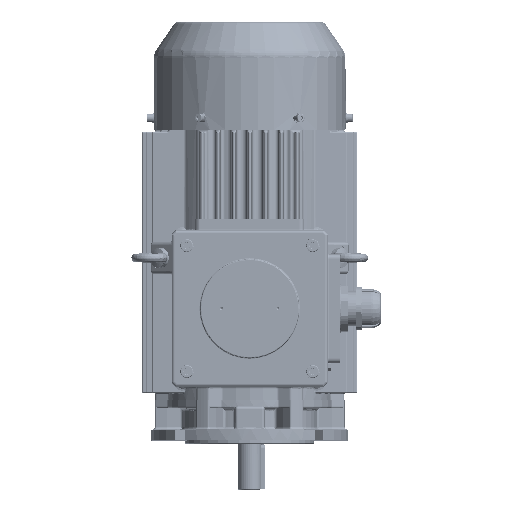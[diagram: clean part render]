
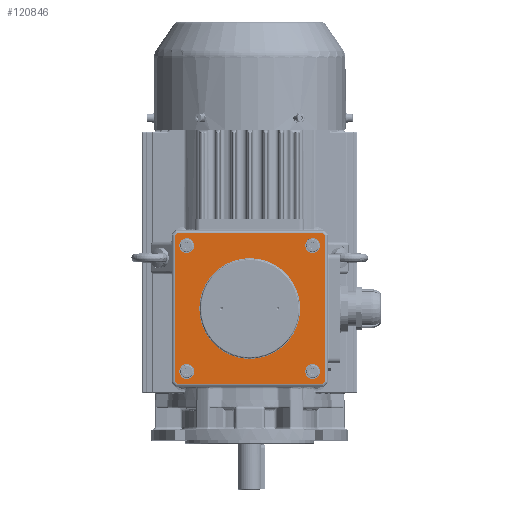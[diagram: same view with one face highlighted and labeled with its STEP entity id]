
A CAD part, top view. The second image highlights one B-rep face of the part: STEP entity #120846.
In plain terms, the highlighted planar face has unit normal (0, 0, 1).
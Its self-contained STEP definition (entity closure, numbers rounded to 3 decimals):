
#10446=LINE('',#195521,#16118);
#10447=LINE('',#195526,#16119);
#10450=LINE('',#195533,#16122);
#10451=LINE('',#195538,#16123);
#10454=LINE('',#195545,#16126);
#10455=LINE('',#195550,#16127);
#10458=LINE('',#195557,#16130);
#10460=LINE('',#195560,#16132);
#16118=VECTOR('',#152915,1000.);
#16119=VECTOR('',#152920,1000.);
#16122=VECTOR('',#152927,1000.);
#16123=VECTOR('',#152932,1000.);
#16126=VECTOR('',#152939,1000.);
#16127=VECTOR('',#152944,1000.);
#16130=VECTOR('',#152951,1000.);
#16132=VECTOR('',#152955,1000.);
#38043=ORIENTED_EDGE('',*,*,#52252,.F.);
#38044=ORIENTED_EDGE('',*,*,#52237,.T.);
#38045=ORIENTED_EDGE('',*,*,#52231,.T.);
#38046=ORIENTED_EDGE('',*,*,#52233,.T.);
#38047=ORIENTED_EDGE('',*,*,#52239,.T.);
#38048=ORIENTED_EDGE('',*,*,#52245,.T.);
#38049=ORIENTED_EDGE('',*,*,#52251,.T.);
#38050=ORIENTED_EDGE('',*,*,#52249,.T.);
#38051=ORIENTED_EDGE('',*,*,#52243,.T.);
#38052=ORIENTED_EDGE('',*,*,#52226,.T.);
#38053=ORIENTED_EDGE('',*,*,#52220,.T.);
#38054=ORIENTED_EDGE('',*,*,#52213,.T.);
#38055=ORIENTED_EDGE('',*,*,#52206,.T.);
#52206=EDGE_CURVE('',#60807,#60807,#65930,.T.);
#52213=EDGE_CURVE('',#60813,#60813,#65935,.T.);
#52220=EDGE_CURVE('',#60819,#60819,#65940,.T.);
#52226=EDGE_CURVE('',#60823,#60823,#65944,.T.);
#52231=EDGE_CURVE('',#60825,#60828,#10446,.T.);
#52233=EDGE_CURVE('',#60828,#60829,#10447,.T.);
#52237=EDGE_CURVE('',#60831,#60825,#10450,.T.);
#52239=EDGE_CURVE('',#60829,#60833,#10451,.T.);
#52243=EDGE_CURVE('',#60835,#60831,#10454,.T.);
#52245=EDGE_CURVE('',#60833,#60837,#10455,.T.);
#52249=EDGE_CURVE('',#60839,#60835,#10458,.T.);
#52251=EDGE_CURVE('',#60837,#60839,#10460,.T.);
#52252=EDGE_CURVE('',#60841,#60841,#65946,.T.);
#60807=VERTEX_POINT('',#195464);
#60813=VERTEX_POINT('',#195480);
#60819=VERTEX_POINT('',#195496);
#60823=VERTEX_POINT('',#195509);
#60825=VERTEX_POINT('',#195515);
#60828=VERTEX_POINT('',#195520);
#60829=VERTEX_POINT('',#195524);
#60831=VERTEX_POINT('',#195530);
#60833=VERTEX_POINT('',#195536);
#60835=VERTEX_POINT('',#195542);
#60837=VERTEX_POINT('',#195548);
#60839=VERTEX_POINT('',#195554);
#60841=VERTEX_POINT('',#195563);
#65930=CIRCLE('',#129832,7.5);
#65935=CIRCLE('',#129840,7.5);
#65940=CIRCLE('',#129848,7.5);
#65944=CIRCLE('',#129855,7.5);
#65946=CIRCLE('',#129875,51.);
#71794=EDGE_LOOP('',(#38043));
#71795=EDGE_LOOP('',(#38044,#38045,#38046,#38047,#38048,#38049,#38050,#38051));
#71796=EDGE_LOOP('',(#38052));
#71797=EDGE_LOOP('',(#38053));
#71798=EDGE_LOOP('',(#38054));
#71799=EDGE_LOOP('',(#38055));
#77996=FACE_BOUND('',#71794,.T.);
#77997=FACE_BOUND('',#71795,.T.);
#77998=FACE_BOUND('',#71796,.T.);
#77999=FACE_BOUND('',#71797,.T.);
#78000=FACE_BOUND('',#71798,.T.);
#78001=FACE_BOUND('',#71799,.T.);
#80709=PLANE('',#129882);
#120846=ADVANCED_FACE('',(#77996,#77997,#77998,#77999,#78000,#78001),#80709,
 .T.);
#129832=AXIS2_PLACEMENT_3D('',#195463,#152850,#152851);
#129840=AXIS2_PLACEMENT_3D('',#195479,#152868,#152869);
#129848=AXIS2_PLACEMENT_3D('',#195495,#152886,#152887);
#129855=AXIS2_PLACEMENT_3D('',#195508,#152902,#152903);
#129875=AXIS2_PLACEMENT_3D('',#195562,#152958,#152959);
#129882=AXIS2_PLACEMENT_3D('',#195573,#152972,#152973);
#152850=DIRECTION('',(0.,0.,-1.));
#152851=DIRECTION('',(1.,0.,0.));
#152868=DIRECTION('',(0.,0.,-1.));
#152869=DIRECTION('',(1.,0.,0.));
#152886=DIRECTION('',(0.,0.,-1.));
#152887=DIRECTION('',(1.,0.,0.));
#152902=DIRECTION('',(0.,0.,-1.));
#152903=DIRECTION('',(1.,0.,0.));
#152915=DIRECTION('',(0.707,0.707,0.));
#152920=DIRECTION('',(0.,1.,0.));
#152927=DIRECTION('',(1.,0.,0.));
#152932=DIRECTION('',(-0.707,0.707,0.));
#152939=DIRECTION('',(0.707,-0.707,0.));
#152944=DIRECTION('',(-1.,0.,0.));
#152951=DIRECTION('',(0.,-1.,0.));
#152955=DIRECTION('',(-0.707,-0.707,0.));
#152958=DIRECTION('',(0.,0.,1.));
#152959=DIRECTION('',(1.,0.,0.));
#152972=DIRECTION('',(0.,0.,1.));
#152973=DIRECTION('',(1.,0.,0.));
#195463=CARTESIAN_POINT('',(63.64,160.64,247.));
#195464=CARTESIAN_POINT('',(71.14,160.64,247.));
#195479=CARTESIAN_POINT('',(63.64,33.36,247.));
#195480=CARTESIAN_POINT('',(71.14,33.36,247.));
#195495=CARTESIAN_POINT('',(-63.64,33.36,247.));
#195496=CARTESIAN_POINT('',(-56.14,33.36,247.));
#195508=CARTESIAN_POINT('',(-63.64,160.64,247.));
#195509=CARTESIAN_POINT('',(-56.14,160.64,247.));
#195515=CARTESIAN_POINT('',(73.757,21.,247.));
#195520=CARTESIAN_POINT('',(76.,23.243,247.));
#195521=CARTESIAN_POINT('',(74.879,22.121,247.));
#195524=CARTESIAN_POINT('',(76.,170.757,247.));
#195526=CARTESIAN_POINT('',(76.,97.,247.));
#195530=CARTESIAN_POINT('',(-73.757,21.,247.));
#195533=CARTESIAN_POINT('',(0.,21.,247.));
#195536=CARTESIAN_POINT('',(73.757,173.,247.));
#195538=CARTESIAN_POINT('',(74.879,171.879,247.));
#195542=CARTESIAN_POINT('',(-76.,23.243,247.));
#195545=CARTESIAN_POINT('',(-74.879,22.121,247.));
#195548=CARTESIAN_POINT('',(-73.757,173.,247.));
#195550=CARTESIAN_POINT('',(0.,173.,247.));
#195554=CARTESIAN_POINT('',(-76.,170.757,247.));
#195557=CARTESIAN_POINT('',(-76.,97.,247.));
#195560=CARTESIAN_POINT('',(-74.879,171.879,247.));
#195562=CARTESIAN_POINT('',(0.,97.,247.));
#195563=CARTESIAN_POINT('',(51.,97.,247.));
#195573=CARTESIAN_POINT('',(0.,97.,247.));
